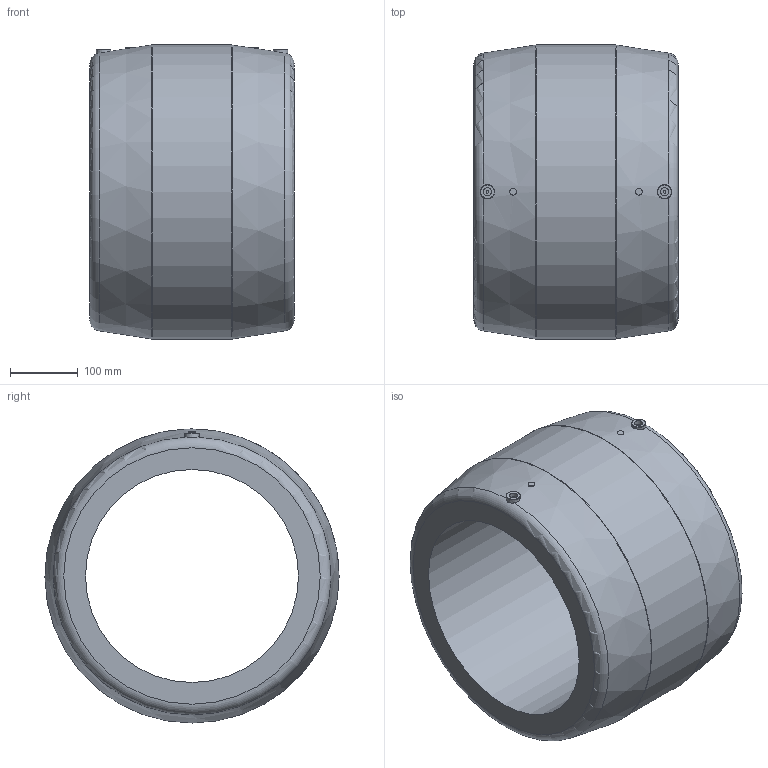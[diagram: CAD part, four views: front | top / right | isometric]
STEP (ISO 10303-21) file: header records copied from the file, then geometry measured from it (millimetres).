
FILE_DESCRIPTION(/* description */ ('Unknown'),/* implementation_level */ '2;1');
FILE_NAME(/* name */ 'MP315H',/* time_stamp */ '2021-05-27T12:03:46+02:00',/* author */ ('Unknown'),/* organization */ ('Unknown'),/* preprocessor_version */ 'ST-DEVELOPER v16.7',/* originating_system */ 'Solid Edge',/* authorisation */ 'Unknown');
FILE_SCHEMA (('AUTOMOTIVE_DESIGN {1 0 10303 214 3 1 1}'));
Length unit declared in the file: millimetre
Products named in the file (1): MP315H
Bounding box: 302 x 435 x 435 mm (x, y, z)
Volume: 19519348.9 mm3; surface area: 800242.5 mm2
Topology: 1 solids, 1 shells, 28 faces, 60 edges, 40 vertices
Faces by surface type: plane 10, cylinder 8, torus 6, cone 4
Full cylindrical faces by diameter (mm): 4 x2, 10 x2, 12 x2, 315 x1, 435 x1
Entity records: 648 total; most frequent: CARTESIAN_POINT 143, DIRECTION 106, ORIENTED_EDGE 60, EDGE_LOOP 54, FACE_BOUND 54, AXIS2_PLACEMENT_3D 53, EDGE_CURVE 30, VERTEX_POINT 28
